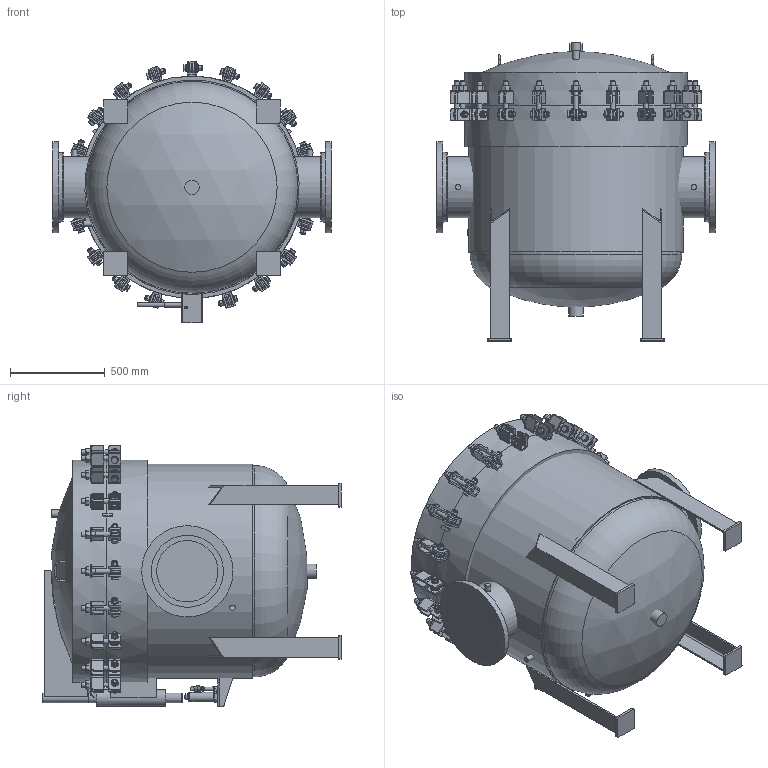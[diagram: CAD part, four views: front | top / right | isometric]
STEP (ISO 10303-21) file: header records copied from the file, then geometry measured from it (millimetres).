
FILE_DESCRIPTION (( 'STEP AP203' ), '1' );
FILE_NAME ('002004-00633.STEP', '2025-12-12T14:17:21', ( '' ), ( '' ), 'SwSTEP 2.0', 'SolidWorks 2023', '' );
FILE_SCHEMA (( 'CONFIG_CONTROL_DESIGN' ));
Length unit declared in the file: inch
Products named in the file (1): 002004-00633
Bounding box: 1473.2 x 1576.39 x 1380.44 mm (x, y, z)
Volume: 778306142.6 mm3; surface area: 16595826.9 mm2
Topology: 36 solids, 36 shells, 3146 faces, 7609 edges, 4830 vertices
Faces by surface type: plane 1569, cylinder 791, cone 705, torus 70, bspline 9, sphere 2
Full cylindrical faces by diameter (mm): 6.35 x9, 7.938 x1, 9.525 x5, 11.112 x1, 11.113 x2, 15.081 x1, 19.05 x97, 20.638 x1, 22.225 x1, 25.4 x61, 28.575 x22, 31.75 x20, 37.313 x38, 38.1 x2, 48.895 x1, 50.546 x3, 50.8 x1, 69.85 x19, 73.025 x1, 76.2 x3, 88.9 x1, 323.85 x2, 381 x2, 482.6 x2, 1117.6 x1, 1174.75 x2
Entity records: 96618 total; most frequent: CARTESIAN_POINT 27422, DIRECTION 14165, ORIENTED_EDGE 13882, EDGE_CURVE 6941, AXIS2_PLACEMENT_3D 5743, VERTEX_POINT 4582, EDGE_LOOP 3929, FACE_OUTER_BOUND 3515
